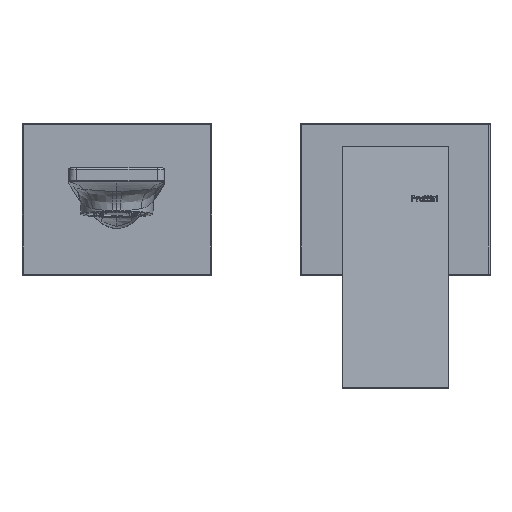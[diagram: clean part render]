
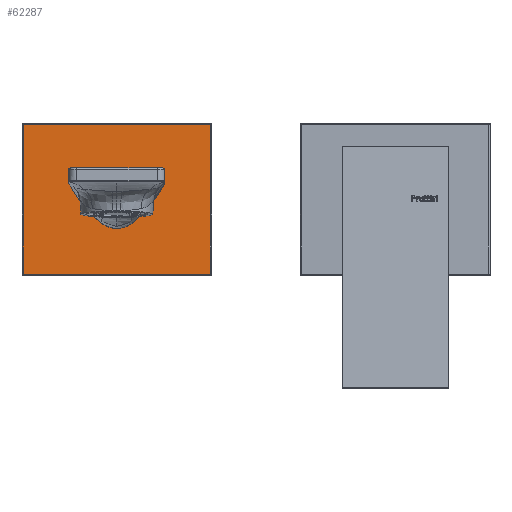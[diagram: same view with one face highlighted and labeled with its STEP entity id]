
A CAD part, top view. The second image highlights one B-rep face of the part: STEP entity #62287.
In plain terms, the highlighted planar face has unit normal (0, 0, 1) as drawn and (0, 1, 0) by its records, which use the part's own axes.
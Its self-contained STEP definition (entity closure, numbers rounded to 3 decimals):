
#62093=CARTESIAN_POINT('',(0.,2.,0.));
#62094=DIRECTION('',(0.,1.,0.));
#62095=DIRECTION('',(1.,0.,0.));
#62096=AXIS2_PLACEMENT_3D('',#62093,#62094,#62095);
#62098=CARTESIAN_POINT('',(0.,2.,0.));
#62099=DIRECTION('',(0.,1.,0.));
#62100=DIRECTION('',(-1.,0.,0.));
#62101=AXIS2_PLACEMENT_3D('',#62098,#62099,#62100);
#62103=DIRECTION('',(0.,0.,1.));
#62104=VECTOR('',#62103,74.);
#62105=CARTESIAN_POINT('',(-29.5,2.,-37.));
#62106=LINE('',#62105,#62104);
#62107=DIRECTION('',(-1.,0.,0.));
#62108=VECTOR('',#62107,59.);
#62109=CARTESIAN_POINT('',(29.5,2.,-37.));
#62110=LINE('',#62109,#62108);
#62111=DIRECTION('',(0.,0.,-1.));
#62112=VECTOR('',#62111,74.);
#62113=CARTESIAN_POINT('',(29.5,2.,37.));
#62114=LINE('',#62113,#62112);
#62115=DIRECTION('',(1.,0.,0.));
#62116=VECTOR('',#62115,59.);
#62117=CARTESIAN_POINT('',(-29.5,2.,37.));
#62118=LINE('',#62117,#62116);
#62173=CARTESIAN_POINT('',(9.75,2.,0.));
#62174=CARTESIAN_POINT('',(-9.75,2.,0.));
#62175=VERTEX_POINT('',#62173);
#62176=VERTEX_POINT('',#62174);
#62185=CARTESIAN_POINT('',(-29.5,2.,-37.));
#62186=CARTESIAN_POINT('',(-29.5,2.,37.));
#62187=VERTEX_POINT('',#62185);
#62188=VERTEX_POINT('',#62186);
#62195=CARTESIAN_POINT('',(29.5,2.,37.));
#62196=VERTEX_POINT('',#62195);
#62199=CARTESIAN_POINT('',(29.5,2.,-37.));
#62200=VERTEX_POINT('',#62199);
#62268=CARTESIAN_POINT('',(0.,2.,0.));
#62269=DIRECTION('',(0.,1.,0.));
#62270=DIRECTION('',(1.,0.,0.));
#62271=AXIS2_PLACEMENT_3D('',#62268,#62269,#62270);
#62272=PLANE('',#62271);
#62273=ORIENTED_EDGE('',*,*,#62258,.F.);
#62275=ORIENTED_EDGE('',*,*,#62274,.F.);
#62277=ORIENTED_EDGE('',*,*,#62276,.F.);
#62278=ORIENTED_EDGE('',*,*,#62246,.F.);
#62279=EDGE_LOOP('',(#62273,#62275,#62277,#62278));
#62280=FACE_OUTER_BOUND('',#62279,.F.);
#62282=ORIENTED_EDGE('',*,*,#62281,.T.);
#62284=ORIENTED_EDGE('',*,*,#62283,.T.);
#62285=EDGE_LOOP('',(#62282,#62284));
#62286=FACE_BOUND('',#62285,.F.);
#62287=ADVANCED_FACE('',(#62280,#62286),#62272,.T.);
#62097=CIRCLE('',#62096,9.75);
#62102=CIRCLE('',#62101,9.75);
#62246=EDGE_CURVE('',#62188,#62196,#62118,.T.);
#62258=EDGE_CURVE('',#62187,#62188,#62106,.T.);
#62274=EDGE_CURVE('',#62200,#62187,#62110,.T.);
#62276=EDGE_CURVE('',#62196,#62200,#62114,.T.);
#62281=EDGE_CURVE('',#62175,#62176,#62097,.T.);
#62283=EDGE_CURVE('',#62176,#62175,#62102,.T.);
